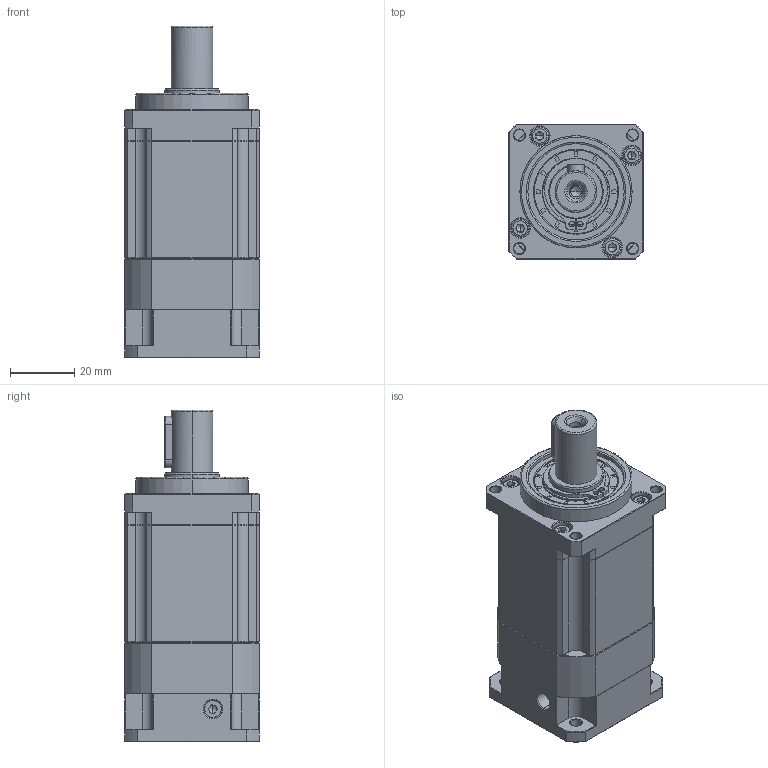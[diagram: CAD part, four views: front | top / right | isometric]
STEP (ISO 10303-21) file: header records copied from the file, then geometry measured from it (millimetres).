
FILE_DESCRIPTION (( 'STEP AP214' ), '1' );
FILE_NAME ('ZB040-L2-P2-5-22-31X31-3.51.STEP', '2023-06-06T12:51:13', ( 'Windows 蚚誧' ), ( 'Organization' ), 'SwSTEP 2.0', 'SolidWorks 2016', '' );
FILE_SCHEMA (( 'AUTOMOTIVE_DESIGN' ));
Length unit declared in the file: millimetre
Products named in the file (1): ZB040-L2-P2-5-22-31X31-3.51
Bounding box: 42 x 42 x 103.5 mm (x, y, z)
Volume: 122937.8 mm3; surface area: 29238.2 mm2
Topology: 6 solids, 6 shells, 1630 faces, 4171 edges, 2633 vertices
Faces by surface type: plane 711, cone 324, cylinder 307, bspline 267, torus 21
Entity records: 79357 total; most frequent: CARTESIAN_POINT 23660, ORIENTED_EDGE 8298, DIRECTION 7025, EDGE_CURVE 4149, VERTEX_POINT 2633, VECTOR 2385, LINE 2385, AXIS2_PLACEMENT_3D 2320
